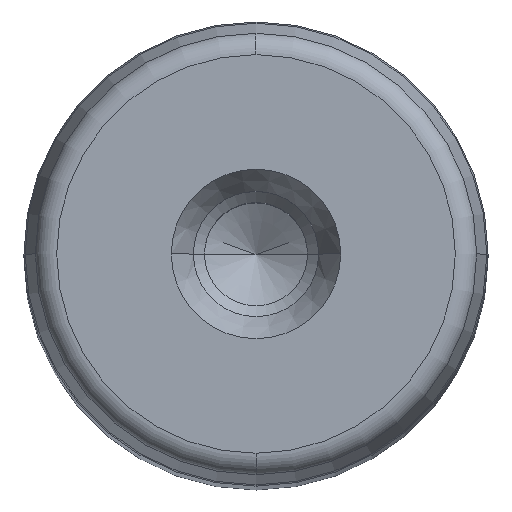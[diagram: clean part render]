
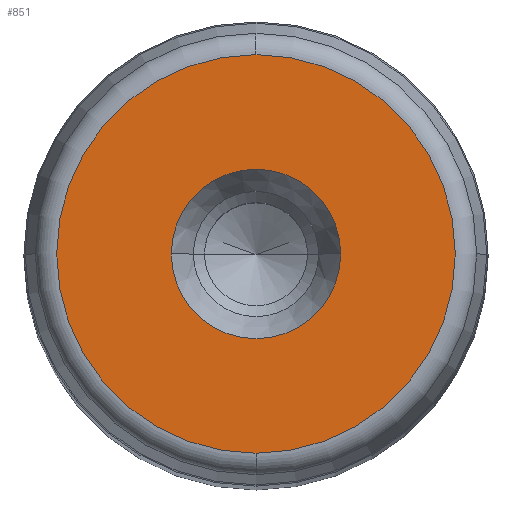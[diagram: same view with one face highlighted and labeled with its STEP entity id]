
A CAD part, top view. The second image highlights one B-rep face of the part: STEP entity #851.
In plain terms, the highlighted planar face has unit normal (0, 0, 1) as drawn and (0, 1, 0) by its records, which use the part's own axes.
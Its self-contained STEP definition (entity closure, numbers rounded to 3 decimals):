
#281=CARTESIAN_POINT('',(11.5,315.0,0.0));
#282=VERTEX_POINT('',#281);
#289=CARTESIAN_POINT('',(-11.5,315.0,0.));
#290=VERTEX_POINT('',#289);
#291=CARTESIAN_POINT('',(0.0,315.0,0.0));
#292=DIRECTION('',(0.0,1.0,0.0));
#293=DIRECTION('',(1.0,0.0,0.0));
#294=AXIS2_PLACEMENT_3D('',#291,#292,#293);
#295=CIRCLE('',#294,11.5);
#296=EDGE_CURVE('',#282,#290,#295,.T.);
#313=CARTESIAN_POINT('',(0.0,315.0,27.054));
#314=VERTEX_POINT('',#313);
#324=CARTESIAN_POINT('',(0.,315.0,-27.054));
#325=VERTEX_POINT('',#324);
#326=CARTESIAN_POINT('',(0.0,315.0,0.0));
#327=DIRECTION('',(0.0,1.0,0.0));
#328=DIRECTION('',(1.0,0.0,0.0));
#329=AXIS2_PLACEMENT_3D('',#326,#327,#328);
#330=CIRCLE('',#329,27.054);
#331=EDGE_CURVE('',#325,#314,#330,.T.);
#812=CARTESIAN_POINT('',(27.054,315.0,0.0));
#813=VERTEX_POINT('',#812);
#814=CARTESIAN_POINT('',(0.0,315.0,0.0));
#815=DIRECTION('',(0.0,1.0,0.0));
#816=DIRECTION('',(1.0,0.0,0.0));
#817=AXIS2_PLACEMENT_3D('',#814,#815,#816);
#818=CIRCLE('',#817,27.054);
#819=EDGE_CURVE('',#813,#325,#818,.T.);
#821=CARTESIAN_POINT('',(0.0,315.0,0.0));
#822=DIRECTION('',(0.0,1.0,0.0));
#823=DIRECTION('',(1.0,0.0,0.0));
#824=AXIS2_PLACEMENT_3D('',#821,#822,#823);
#825=CIRCLE('',#824,27.054);
#826=EDGE_CURVE('',#314,#813,#825,.T.);
#831=CARTESIAN_POINT('',(-29.76,315.0,-29.76));
#832=DIRECTION('',(0.0,1.0,0.0));
#833=DIRECTION('',(0.0,0.0,1.0));
#834=AXIS2_PLACEMENT_3D('',#831,#832,#833);
#835=PLANE('',#834);
#836=ORIENTED_EDGE('',*,*,#819,.T.);
#837=ORIENTED_EDGE('',*,*,#331,.T.);
#838=ORIENTED_EDGE('',*,*,#826,.T.);
#839=EDGE_LOOP('',(#836,#837,#838));
#840=FACE_OUTER_BOUND('',#839,.T.);
#841=ORIENTED_EDGE('',*,*,#296,.F.);
#842=CARTESIAN_POINT('',(0.0,315.0,0.0));
#843=DIRECTION('',(0.0,1.0,0.0));
#844=DIRECTION('',(1.0,0.0,0.0));
#845=AXIS2_PLACEMENT_3D('',#842,#843,#844);
#846=CIRCLE('',#845,11.5);
#847=EDGE_CURVE('',#290,#282,#846,.T.);
#848=ORIENTED_EDGE('',*,*,#847,.F.);
#849=EDGE_LOOP('',(#841,#848));
#850=FACE_BOUND('',#849,.T.);
#851=ADVANCED_FACE('',(#840,#850),#835,.T.);
